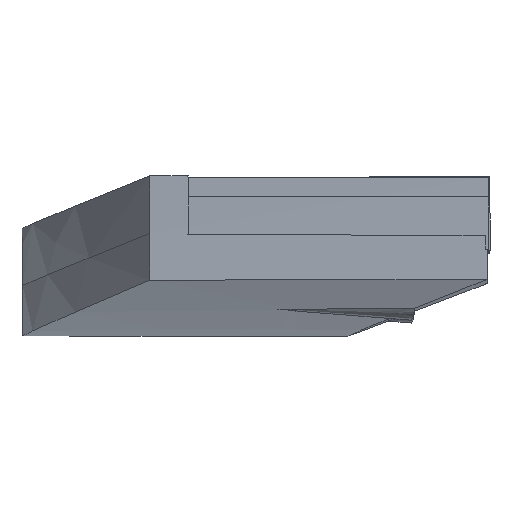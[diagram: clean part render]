
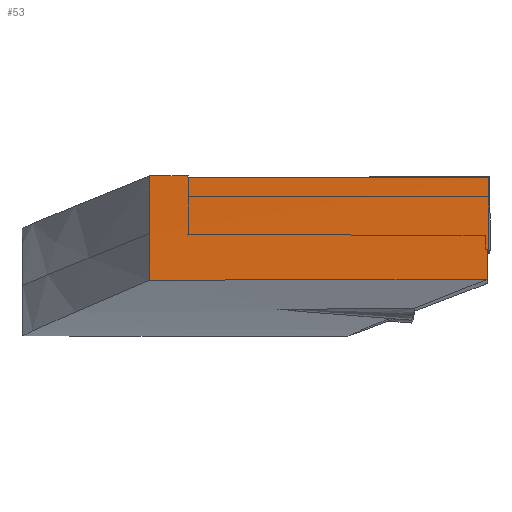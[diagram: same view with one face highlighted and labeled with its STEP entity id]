
A CAD part, top view. The second image highlights one B-rep face of the part: STEP entity #53.
In plain terms, the highlighted cylindrical face has radius 500 mm (diameter 1000 mm), a partial arc.
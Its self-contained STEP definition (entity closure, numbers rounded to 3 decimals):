
#12 = DIRECTION ( 'NONE',  ( 0., 1., 0. ) ) ;
#22 = VECTOR ( 'NONE', #1445, 1000. ) ;
#32 = CARTESIAN_POINT ( 'NONE',  ( -13.32, -0.186, 127.956 ) ) ;
#38 = LINE ( 'NONE', #1301, #22 ) ;
#53 = ADVANCED_FACE ( 'NONE', ( #1271 ), #1128, .T. ) ;
#117 = VERTEX_POINT ( 'NONE', #449 ) ;
#188 = CARTESIAN_POINT ( 'NONE',  ( 4.437, 5.22, 128.469 ) ) ;
#258 = VERTEX_POINT ( 'NONE', #685 ) ;
#266 = EDGE_LOOP ( 'NONE', ( #1655, #1967, #1937, #1728, #2052, #1877, #746, #1307, #699 ) ) ;
#297 = VERTEX_POINT ( 'NONE', #633 ) ;
#315 = DIRECTION ( 'NONE',  ( 0., -1., 0. ) ) ;
#339 = CARTESIAN_POINT ( 'NONE',  ( 10., -6.589, -371.5 ) ) ;
#434 = CARTESIAN_POINT ( 'NONE',  ( -13.32, 1.706, 127.956 ) ) ;
#449 = CARTESIAN_POINT ( 'NONE',  ( -13.32, 5.256, 127.956 ) ) ;
#521 = CARTESIAN_POINT ( 'NONE',  ( -11.301, 5.263, 128.046 ) ) ;
#571 = CARTESIAN_POINT ( 'NONE',  ( -11.469, 5.263, 128.039 ) ) ;
#581 = CARTESIAN_POINT ( 'NONE',  ( -11.805, 5.262, 128.024 ) ) ;
#585 = CARTESIAN_POINT ( 'NONE',  ( -11.637, 5.262, 128.032 ) ) ;
#593 = CARTESIAN_POINT ( 'NONE',  ( -11.974, 5.261, 128.017 ) ) ;
#616 = VERTEX_POINT ( 'NONE', #1077 ) ;
#618 = DIRECTION ( 'NONE',  ( 0., 1., 0. ) ) ;
#633 = CARTESIAN_POINT ( 'NONE',  ( 4.288, -0.14, 128.467 ) ) ;
#637 = DIRECTION ( 'NONE',  ( 0., 1., 0. ) ) ;
#656 = CARTESIAN_POINT ( 'NONE',  ( -13.32, 3.756, 127.956 ) ) ;
#659 = CARTESIAN_POINT ( 'NONE',  ( -12.142, 5.26, 128.01 ) ) ;
#667 = CARTESIAN_POINT ( 'NONE',  ( -12.31, 5.26, 128.002 ) ) ;
#677 = CARTESIAN_POINT ( 'NONE',  ( -12.647, 5.258, 127.987 ) ) ;
#685 = CARTESIAN_POINT ( 'NONE',  ( 4.288, 1.371, 128.467 ) ) ;
#692 = LINE ( 'NONE', #434, #868 ) ;
#693 = AXIS2_PLACEMENT_3D ( 'NONE', #339, #1172, #1212 ) ;
#699 = ORIENTED_EDGE ( 'NONE', *, *, #1191, .F. ) ;
#746 = ORIENTED_EDGE ( 'NONE', *, *, #847, .F. ) ;
#760 = CARTESIAN_POINT ( 'NONE',  ( -12.983, 5.257, 127.972 ) ) ;
#773 = CARTESIAN_POINT ( 'NONE',  ( -13.32, 5.256, 127.956 ) ) ;
#780 = VERTEX_POINT ( 'NONE', #1113 ) ;
#781 = CARTESIAN_POINT ( 'NONE',  ( -11.301, 5.161, 128.046 ) ) ;
#813 = EDGE_CURVE ( 'NONE', #297, #819, #900, .T. ) ;
#819 = VERTEX_POINT ( 'NONE', #32 ) ;
#847 = EDGE_CURVE ( 'NONE', #930, #780, #919, .T. ) ;
#858 = EDGE_CURVE ( 'NONE', #1419, #930, #1457, .T. ) ;
#860 = VECTOR ( 'NONE', #618, 1000. ) ;
#868 = VECTOR ( 'NONE', #12, 1000. ) ;
#869 = EDGE_CURVE ( 'NONE', #780, #258, #1996, .T. ) ;
#884 = EDGE_CURVE ( 'NONE', #117, #1200, #1826, .T. ) ;
#894 = EDGE_CURVE ( 'NONE', #819, #616, #692, .T. ) ;
#900 = B_SPLINE_CURVE_WITH_KNOTS ( 'NONE', 3,
 ( #974, #1952, #1000, #1974 ),
 .UNSPECIFIED., .F., .F.,
 ( 4, 4 ),
 ( 0.001, 0.018 ),
 .UNSPECIFIED. ) ;
#919 = LINE ( 'NONE', #2000, #1098 ) ;
#930 = VERTEX_POINT ( 'NONE', #188 ) ;
#948 = EDGE_CURVE ( 'NONE', #297, #258, #1345, .T. ) ;
#974 = CARTESIAN_POINT ( 'NONE',  ( 4.288, -0.14, 128.467 ) ) ;
#1000 = CARTESIAN_POINT ( 'NONE',  ( -7.454, -0.162, 128.23 ) ) ;
#1030 = EDGE_CURVE ( 'NONE', #616, #117, #1208, .T. ) ;
#1047 = CARTESIAN_POINT ( 'NONE',  ( 4.288, 1.371, 128.467 ) ) ;
#1077 = CARTESIAN_POINT ( 'NONE',  ( -13.32, 2.256, 127.956 ) ) ;
#1098 = VECTOR ( 'NONE', #315, 1000. ) ;
#1113 = CARTESIAN_POINT ( 'NONE',  ( 4.437, 1.371, 128.469 ) ) ;
#1128 = CYLINDRICAL_SURFACE ( 'NONE', #693, 500. ) ;
#1143 = CARTESIAN_POINT ( 'NONE',  ( 4.337, 1.371, 128.468 ) ) ;
#1172 = DIRECTION ( 'NONE',  ( 0., 1., 0. ) ) ;
#1191 = EDGE_CURVE ( 'NONE', #1200, #1419, #38, .T. ) ;
#1200 = VERTEX_POINT ( 'NONE', #1576 ) ;
#1208 = LINE ( 'NONE', #656, #860 ) ;
#1212 = DIRECTION ( 'NONE',  ( 0., 0., 1. ) ) ;
#1271 = FACE_OUTER_BOUND ( 'NONE', #266, .T. ) ;
#1301 = CARTESIAN_POINT ( 'NONE',  ( -11.301, 3.724, 128.046 ) ) ;
#1307 = ORIENTED_EDGE ( 'NONE', *, *, #858, .F. ) ;
#1330 = CARTESIAN_POINT ( 'NONE',  ( 4.437, 1.371, 128.469 ) ) ;
#1345 = LINE ( 'NONE', #1940, #1429 ) ;
#1394 = CARTESIAN_POINT ( 'NONE',  ( 4.387, 1.371, 128.468 ) ) ;
#1419 = VERTEX_POINT ( 'NONE', #781 ) ;
#1429 = VECTOR ( 'NONE', #637, 1000. ) ;
#1445 = DIRECTION ( 'NONE',  ( 0., -1., 0. ) ) ;
#1457 =( BOUNDED_CURVE ( )  B_SPLINE_CURVE ( 3, ( #1553, #1708, #1702, #1491 ),
 .UNSPECIFIED., .F., .T. ) 
 B_SPLINE_CURVE_WITH_KNOTS ( ( 4, 4 ),
 ( 6.241, 6.272 ),
 .UNSPECIFIED. ) 
 CURVE ( )  GEOMETRIC_REPRESENTATION_ITEM ( )  RATIONAL_B_SPLINE_CURVE ( ( 1., 1., 1., 1. ) ) 
 REPRESENTATION_ITEM ( '' )  );
#1491 = CARTESIAN_POINT ( 'NONE',  ( 4.437, 5.22, 128.469 ) ) ;
#1553 = CARTESIAN_POINT ( 'NONE',  ( -11.301, 5.161, 128.046 ) ) ;
#1576 = CARTESIAN_POINT ( 'NONE',  ( -11.301, 5.263, 128.046 ) ) ;
#1655 = ORIENTED_EDGE ( 'NONE', *, *, #884, .F. ) ;
#1702 = CARTESIAN_POINT ( 'NONE',  ( -0.811, 5.212, 128.411 ) ) ;
#1708 = CARTESIAN_POINT ( 'NONE',  ( -6.057, 5.192, 128.27 ) ) ;
#1728 = ORIENTED_EDGE ( 'NONE', *, *, #813, .F. ) ;
#1826 = B_SPLINE_CURVE_WITH_KNOTS ( 'NONE', 3,
 ( #773, #760, #677, #667, #659, #593, #581, #585, #571, #521 ),
 .UNSPECIFIED., .F., .F.,
 ( 4, 3, 3, 4 ),
 ( 0., 0.001, 0.002, 0.002 ),
 .UNSPECIFIED. ) ;
#1877 = ORIENTED_EDGE ( 'NONE', *, *, #869, .F. ) ;
#1937 = ORIENTED_EDGE ( 'NONE', *, *, #894, .F. ) ;
#1940 = CARTESIAN_POINT ( 'NONE',  ( 4.288, 1.706, 128.467 ) ) ;
#1952 = CARTESIAN_POINT ( 'NONE',  ( -1.584, -0.146, 128.4 ) ) ;
#1967 = ORIENTED_EDGE ( 'NONE', *, *, #1030, .F. ) ;
#1974 = CARTESIAN_POINT ( 'NONE',  ( -13.32, -0.186, 127.956 ) ) ;
#1996 =( BOUNDED_CURVE ( )  B_SPLINE_CURVE ( 3, ( #1330, #1394, #1143, #1047 ),
 .UNSPECIFIED., .F., .T. ) 
 B_SPLINE_CURVE_WITH_KNOTS ( ( 4, 4 ),
 ( 3.153, 3.153 ),
 .UNSPECIFIED. ) 
 CURVE ( )  GEOMETRIC_REPRESENTATION_ITEM ( )  RATIONAL_B_SPLINE_CURVE ( ( 1., 1., 1., 1. ) ) 
 REPRESENTATION_ITEM ( '' )  );
#2000 = CARTESIAN_POINT ( 'NONE',  ( 4.437, -6.589, 128.469 ) ) ;
#2052 = ORIENTED_EDGE ( 'NONE', *, *, #948, .T. ) ;
